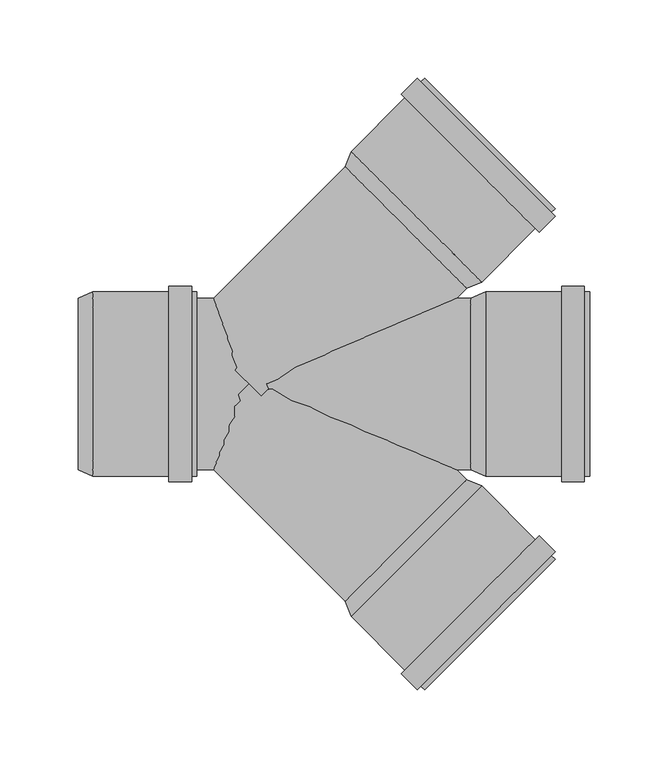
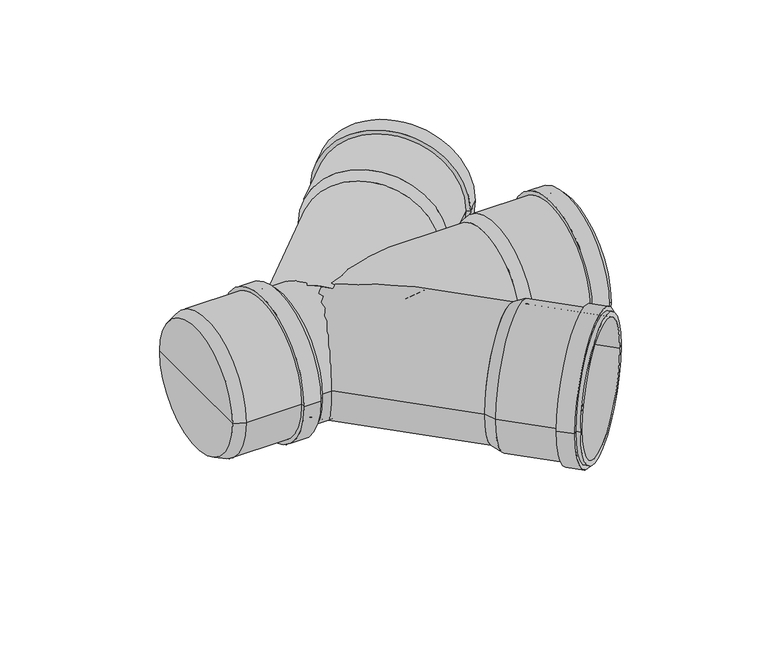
"""IFC4 building model written with IfcOpenShell, lengths in millimetres: pipe fitting geometry, pf_HTDA : pf_HTDA."""

from ifc_helpers import new_model, si_unit, point, frame, origin, origin_2d, place, context, project, spatial, polyline, circle_curve, trimmed, segment, composite_curve, outline, extrude, source, transform, mapped, element, save
from ifc_brep_helpers import plane_surface, cylinder_surface, revolved_surface, advanced_brep


def pipe_fitting_b5a4c82e(model_context):
    return source(origin(), model_context, "Body", "SolidModel", [
        advanced_brep(
        [(139.1586145, 61.3768686, 0.0), (61.3768686, 139.1586145, 0.0), (65.1952452, 148.7752668, 0.0), (148.7752668, 65.1952452, 0.0), (100.2677416, 100.2677416, 0.0), (195.7978677, 112.2178462, 0.0), (112.2178462, 195.7978677, 0.0), (115.116984, 192.8987299, 0.0), (192.8987299, 115.116984, 0.0), (193.3937047, 109.8136831, 0.0), (109.8136831, 193.3937047, 0.0), (195.7978677, 107.4095201, 0.0), (107.4095201, 195.7978677, 0.0), (185.5448194, 97.1564717, 0.0), (97.1564717, 185.5448194, 0.0), (183.1406563, 99.5606348, 0.0), (99.5606348, 183.1406563, 0.0), (145.876129, 68.094383, 0.0), (68.094383, 145.876129, 0.0), (106.985256, 106.985256, 0.0)],
        [
            (0, 1, circle_curve(frame((100.2677416, 100.2677416, 0.0), z_axis=(0.707106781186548, 0.707106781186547, 0.0), x_axis=(-0.707106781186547, 0.707106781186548, 0.0)), 55.0)),
            (1, 2),
            (2, 3, circle_curve(frame((106.985256, 106.985256, 0.0), z_axis=(-0.707106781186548, -0.707106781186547, 0.0), x_axis=(-0.707106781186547, 0.707106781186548, 0.0)), 59.1)),
            (3, 0),
            (1, 0, circle_curve(frame((100.2677416, 100.2677416, 0.0), z_axis=(0.707106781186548, 0.707106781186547, 0.0), x_axis=(-0.707106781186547, 0.707106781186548, 0.0)), 55.0)),
            (3, 2, circle_curve(frame((106.985256, 106.985256, 0.0), z_axis=(-0.707106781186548, -0.707106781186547, 0.0), x_axis=(-0.707106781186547, 0.707106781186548, 0.0)), 59.1)),
            (4, 1),
            (0, 4),
            (5, 6, circle_curve(frame((154.0078569, 154.0078569, 0.0), z_axis=(0.707106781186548, 0.707106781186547, 0.0), x_axis=(-0.707106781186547, 0.707106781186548, 0.0)), 59.1)),
            (6, 7),
            (7, 8, circle_curve(frame((154.0078569, 154.0078569, 0.0), z_axis=(-0.707106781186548, -0.707106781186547, 0.0), x_axis=(-0.707106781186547, 0.707106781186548, 0.0)), 55.0)),
            (8, 5),
            (6, 5, circle_curve(frame((154.0078569, 154.0078569, 0.0), z_axis=(0.707106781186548, 0.707106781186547, 0.0), x_axis=(-0.707106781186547, 0.707106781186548, 0.0)), 59.1)),
            (8, 7, circle_curve(frame((154.0078569, 154.0078569, 0.0), z_axis=(-0.707106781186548, -0.707106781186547, 0.0), x_axis=(-0.707106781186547, 0.707106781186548, 0.0)), 55.0)),
            (9, 10, circle_curve(frame((151.6036939, 151.6036939, 0.0), z_axis=(0.707106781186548, 0.707106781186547, 0.0), x_axis=(-0.707106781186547, 0.707106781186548, 0.0)), 59.1)),
            (10, 6),
            (5, 9),
            (10, 9, circle_curve(frame((151.6036939, 151.6036939, 0.0), z_axis=(0.707106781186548, 0.707106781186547, 0.0), x_axis=(-0.707106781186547, 0.707106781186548, 0.0)), 59.1)),
            (11, 12, circle_curve(frame((151.6036939, 151.6036939, 0.0), z_axis=(0.707106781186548, 0.707106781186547, 0.0), x_axis=(-0.707106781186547, 0.707106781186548, 0.0)), 62.5)),
            (12, 10),
            (9, 11),
            (12, 11, circle_curve(frame((151.6036939, 151.6036939, 0.0), z_axis=(0.707106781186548, 0.707106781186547, 0.0), x_axis=(-0.707106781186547, 0.707106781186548, 0.0)), 62.5)),
            (13, 14, circle_curve(frame((141.3506456, 141.3506456, 0.0), z_axis=(0.707106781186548, 0.707106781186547, 0.0), x_axis=(-0.707106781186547, 0.707106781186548, 0.0)), 62.5)),
            (14, 12),
            (11, 13),
            (14, 13, circle_curve(frame((141.3506456, 141.3506456, 0.0), z_axis=(0.707106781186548, 0.707106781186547, 0.0), x_axis=(-0.707106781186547, 0.707106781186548, 0.0)), 62.5)),
            (15, 16, circle_curve(frame((141.3506456, 141.3506456, 0.0), z_axis=(0.707106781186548, 0.707106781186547, 0.0), x_axis=(-0.707106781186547, 0.707106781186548, 0.0)), 59.1)),
            (16, 14),
            (13, 15),
            (16, 15, circle_curve(frame((141.3506456, 141.3506456, 0.0), z_axis=(0.707106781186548, 0.707106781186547, 0.0), x_axis=(-0.707106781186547, 0.707106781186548, 0.0)), 59.1)),
            (2, 16),
            (15, 3),
            (17, 18, circle_curve(frame((106.985256, 106.985256, 0.0), z_axis=(0.707106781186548, 0.707106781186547, 0.0), x_axis=(-0.707106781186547, 0.707106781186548, 0.0)), 55.0)),
            (18, 19),
            (19, 17),
            (18, 17, circle_curve(frame((106.985256, 106.985256, 0.0), z_axis=(0.707106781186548, 0.707106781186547, 0.0), x_axis=(-0.707106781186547, 0.707106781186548, 0.0)), 55.0)),
            (7, 18),
            (17, 8),
        ],
        [
            revolved_surface(polyline([(65.1952452, 148.7752668, 0.0), (61.3768686, 139.1586145, 0.0)]), (100.2677416, 100.2677416, 0.0), (-0.707106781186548, -0.707106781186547, 0.0)),
            plane_surface(frame((100.2677416, 100.2677416, 0.0), z_axis=(-0.707106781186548, -0.707106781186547, 0.0), x_axis=(-0.707106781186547, 0.707106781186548, 0.0))),
            plane_surface(frame((154.0078569, 154.0078569, 0.0), z_axis=(0.707106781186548, 0.707106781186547, 0.0), x_axis=(-0.707106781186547, 0.707106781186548, 0.0))),
            cylinder_surface(frame((100.2677416, 100.2677416, 0.0), z_axis=(-0.707106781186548, -0.707106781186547, 0.0), x_axis=(-0.707106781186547, 0.707106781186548, 0.0)), 59.1),
            plane_surface(frame((151.6036939, 151.6036939, 0.0), z_axis=(0.707106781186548, 0.707106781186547, 0.0), x_axis=(-0.707106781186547, 0.707106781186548, 0.0))),
            cylinder_surface(frame((100.2677416, 100.2677416, 0.0), z_axis=(-0.707106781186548, -0.707106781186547, 0.0), x_axis=(-0.707106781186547, 0.707106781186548, 0.0)), 62.5),
            plane_surface(frame((141.3506456, 141.3506456, 0.0), z_axis=(-0.707106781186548, -0.707106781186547, 0.0), x_axis=(-0.707106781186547, 0.707106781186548, 0.0))),
            plane_surface(frame((106.985256, 106.985256, 0.0), z_axis=(0.707106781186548, 0.707106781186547, 0.0), x_axis=(-0.707106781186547, 0.707106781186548, 0.0))),
            revolved_surface(polyline([(68.09438303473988, 145.8761289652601, 0.0), (115.11698398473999, 192.89872991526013, 0.0)]), (100.2677416, 100.2677416, 0.0), (-0.707106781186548, -0.707106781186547, 0.0)),
        ],
        [
            (0, [[1, 2, 3, 4]]),
            (0, [[5, -4, 6, -2]]),
            (1, [[7, -1, 8]]),
            (1, [[-8, -5, -7]]),
            (2, [[9, 10, 11, 12]]),
            (2, [[13, -12, 14, -10]]),
            (3, [[15, 16, -9, 17]]),
            (3, [[18, -17, -13, -16]]),
            (4, [[19, 20, -15, 21]]),
            (4, [[22, -21, -18, -20]]),
            (5, [[23, 24, -19, 25]]),
            (5, [[26, -25, -22, -24]]),
            (6, [[27, 28, -23, 29]]),
            (6, [[30, -29, -26, -28]]),
            (3, [[-3, 31, -27, 32]]),
            (3, [[-6, -32, -30, -31]]),
            (7, [[33, 34, 35]]),
            (7, [[36, -35, -34]]),
            (8, [[-11, 37, -33, 38]]),
            (8, [[-14, -38, -36, -37]]),
        ],
    ),
        advanced_brep(
        [(61.3768686, -139.1586145, 0.0), (139.1586145, -61.3768686, 0.0), (148.7752668, -65.1952452, 0.0), (65.1952452, -148.7752668, 0.0), (100.2677416, -100.2677416, 0.0), (112.2178462, -195.7978677, 0.0), (195.7978677, -112.2178462, 0.0), (192.8987299, -115.116984, 0.0), (115.116984, -192.8987299, 0.0), (109.8136831, -193.3937047, 0.0), (193.3937047, -109.8136831, 0.0), (107.4095201, -195.7978677, 0.0), (195.7978677, -107.4095201, 0.0), (97.1564717, -185.5448194, 0.0), (185.5448194, -97.1564717, 0.0), (99.5606348, -183.1406563, 0.0), (183.1406563, -99.5606348, 0.0), (68.094383, -145.876129, 0.0), (145.876129, -68.094383, 0.0), (106.985256, -106.985256, 0.0)],
        [
            (0, 1, circle_curve(frame((100.2677416, -100.2677416, 0.0), z_axis=(0.7071067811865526, -0.7071067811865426, 0.0), x_axis=(0.7071067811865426, 0.7071067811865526, 0.0)), 55.0)),
            (1, 2),
            (2, 3, circle_curve(frame((106.985256, -106.985256, 0.0), z_axis=(-0.7071067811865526, 0.7071067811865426, 0.0), x_axis=(0.7071067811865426, 0.7071067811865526, 0.0)), 59.1)),
            (3, 0),
            (1, 0, circle_curve(frame((100.2677416, -100.2677416, 0.0), z_axis=(0.7071067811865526, -0.7071067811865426, 0.0), x_axis=(0.7071067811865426, 0.7071067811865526, 0.0)), 55.0)),
            (3, 2, circle_curve(frame((106.985256, -106.985256, 0.0), z_axis=(-0.7071067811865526, 0.7071067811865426, 0.0), x_axis=(0.7071067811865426, 0.7071067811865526, 0.0)), 59.1)),
            (4, 1),
            (0, 4),
            (5, 6, circle_curve(frame((154.0078569, -154.0078569, 0.0), z_axis=(0.7071067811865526, -0.7071067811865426, 0.0), x_axis=(0.7071067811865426, 0.7071067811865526, 0.0)), 59.1)),
            (6, 7),
            (7, 8, circle_curve(frame((154.0078569, -154.0078569, 0.0), z_axis=(-0.7071067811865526, 0.7071067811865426, 0.0), x_axis=(0.7071067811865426, 0.7071067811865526, 0.0)), 55.0)),
            (8, 5),
            (6, 5, circle_curve(frame((154.0078569, -154.0078569, 0.0), z_axis=(0.7071067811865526, -0.7071067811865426, 0.0), x_axis=(0.7071067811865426, 0.7071067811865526, 0.0)), 59.1)),
            (8, 7, circle_curve(frame((154.0078569, -154.0078569, 0.0), z_axis=(-0.7071067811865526, 0.7071067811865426, 0.0), x_axis=(0.7071067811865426, 0.7071067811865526, 0.0)), 55.0)),
            (9, 10, circle_curve(frame((151.6036939, -151.6036939, 0.0), z_axis=(0.7071067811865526, -0.7071067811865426, 0.0), x_axis=(0.7071067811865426, 0.7071067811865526, 0.0)), 59.1)),
            (10, 6),
            (5, 9),
            (10, 9, circle_curve(frame((151.6036939, -151.6036939, 0.0), z_axis=(0.7071067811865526, -0.7071067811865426, 0.0), x_axis=(0.7071067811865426, 0.7071067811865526, 0.0)), 59.1)),
            (11, 12, circle_curve(frame((151.6036939, -151.6036939, 0.0), z_axis=(0.7071067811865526, -0.7071067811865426, 0.0), x_axis=(0.7071067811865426, 0.7071067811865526, 0.0)), 62.5)),
            (12, 10),
            (9, 11),
            (12, 11, circle_curve(frame((151.6036939, -151.6036939, 0.0), z_axis=(0.7071067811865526, -0.7071067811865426, 0.0), x_axis=(0.7071067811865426, 0.7071067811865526, 0.0)), 62.5)),
            (13, 14, circle_curve(frame((141.3506456, -141.3506456, 0.0), z_axis=(0.7071067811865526, -0.7071067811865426, 0.0), x_axis=(0.7071067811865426, 0.7071067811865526, 0.0)), 62.5)),
            (14, 12),
            (11, 13),
            (14, 13, circle_curve(frame((141.3506456, -141.3506456, 0.0), z_axis=(0.7071067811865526, -0.7071067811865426, 0.0), x_axis=(0.7071067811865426, 0.7071067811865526, 0.0)), 62.5)),
            (15, 16, circle_curve(frame((141.3506456, -141.3506456, 0.0), z_axis=(0.7071067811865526, -0.7071067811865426, 0.0), x_axis=(0.7071067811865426, 0.7071067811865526, 0.0)), 59.1)),
            (16, 14),
            (13, 15),
            (16, 15, circle_curve(frame((141.3506456, -141.3506456, 0.0), z_axis=(0.7071067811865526, -0.7071067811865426, 0.0), x_axis=(0.7071067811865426, 0.7071067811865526, 0.0)), 59.1)),
            (2, 16),
            (15, 3),
            (17, 18, circle_curve(frame((106.985256, -106.985256, 0.0), z_axis=(0.7071067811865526, -0.7071067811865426, 0.0), x_axis=(0.7071067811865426, 0.7071067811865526, 0.0)), 55.0)),
            (18, 19),
            (19, 17),
            (18, 17, circle_curve(frame((106.985256, -106.985256, 0.0), z_axis=(0.7071067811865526, -0.7071067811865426, 0.0), x_axis=(0.7071067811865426, 0.7071067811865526, 0.0)), 55.0)),
            (7, 18),
            (17, 8),
        ],
        [
            revolved_surface(polyline([(148.7752668, -65.1952452, 0.0), (139.1586145, -61.3768686, 0.0)]), (100.2677416, -100.2677416, 0.0), (-0.7071067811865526, 0.7071067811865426, 0.0)),
            plane_surface(frame((100.2677416, -100.2677416, 0.0), z_axis=(-0.7071067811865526, 0.7071067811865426, 0.0), x_axis=(0.7071067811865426, 0.7071067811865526, 0.0))),
            plane_surface(frame((154.0078569, -154.0078569, 0.0), z_axis=(0.7071067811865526, -0.7071067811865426, 0.0), x_axis=(0.7071067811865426, 0.7071067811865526, 0.0))),
            cylinder_surface(frame((100.2677416, -100.2677416, 0.0), z_axis=(-0.7071067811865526, 0.7071067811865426, 0.0), x_axis=(0.7071067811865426, 0.7071067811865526, 0.0)), 59.1),
            plane_surface(frame((151.6036939, -151.6036939, 0.0), z_axis=(0.7071067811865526, -0.7071067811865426, 0.0), x_axis=(0.7071067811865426, 0.7071067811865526, 0.0))),
            cylinder_surface(frame((100.2677416, -100.2677416, 0.0), z_axis=(-0.7071067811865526, 0.7071067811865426, 0.0), x_axis=(0.7071067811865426, 0.7071067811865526, 0.0)), 62.5),
            plane_surface(frame((141.3506456, -141.3506456, 0.0), z_axis=(-0.7071067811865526, 0.7071067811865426, 0.0), x_axis=(0.7071067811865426, 0.7071067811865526, 0.0))),
            plane_surface(frame((106.985256, -106.985256, 0.0), z_axis=(0.7071067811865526, -0.7071067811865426, 0.0), x_axis=(0.7071067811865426, 0.7071067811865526, 0.0))),
            revolved_surface(polyline([(145.8761289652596, -68.09438303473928, 0.0), (192.8987299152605, -115.1169839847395, 0.0)]), (100.2677416, -100.2677416, 0.0), (-0.7071067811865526, 0.7071067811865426, 0.0)),
        ],
        [
            (0, [[1, 2, 3, 4]]),
            (0, [[5, -4, 6, -2]]),
            (1, [[7, -1, 8]]),
            (1, [[-8, -5, -7]]),
            (2, [[9, 10, 11, 12]]),
            (2, [[13, -12, 14, -10]]),
            (3, [[15, 16, -9, 17]]),
            (3, [[18, -17, -13, -16]]),
            (4, [[19, 20, -15, 21]]),
            (4, [[22, -21, -18, -20]]),
            (5, [[23, 24, -19, 25]]),
            (5, [[26, -25, -22, -24]]),
            (6, [[27, 28, -23, 29]]),
            (6, [[30, -29, -26, -28]]),
            (3, [[-3, 31, -27, 32]]),
            (3, [[-6, -32, -30, -31]]),
            (7, [[33, 34, 35]]),
            (7, [[36, -35, -34]]),
            (8, [[-11, 37, -33, 38]]),
            (8, [[-14, -38, -36, -37]]),
        ],
    ),
        advanced_brep(
        [(141.8, -55.0, 0.0), (141.8, 55.0, 0.0), (151.3, 59.1, 0.0), (151.3, -59.1, 0.0), (141.8, 0.0, 0.0), (217.8, -59.1, 0.0), (217.8, 59.1, 0.0), (217.8, 55.0, 0.0), (217.8, -55.0, 0.0), (214.4, -59.1, 0.0), (214.4, 59.1, 0.0), (214.4, -62.5, 0.0), (214.4, 62.5, 0.0), (199.9, -62.5, 0.0), (199.9, 62.5, 0.0), (199.9, -59.1, 0.0), (199.9, 59.1, 0.0), (151.3, -55.0, 0.0), (151.3, 55.0, 0.0), (151.3, 0.0, 0.0)],
        [
            (0, 1, circle_curve(frame((141.8, 0.0, 0.0), z_axis=(1.0, 0.0, 0.0), x_axis=(0.0, 1.0, 0.0)), 55.0)),
            (1, 2),
            (2, 3, circle_curve(frame((151.3, 0.0, 0.0), z_axis=(-1.0, 0.0, 0.0), x_axis=(0.0, 1.0, 0.0)), 59.1)),
            (3, 0),
            (1, 0, circle_curve(frame((141.8, 0.0, 0.0), z_axis=(1.0, 0.0, 0.0), x_axis=(0.0, 1.0, 0.0)), 55.0)),
            (3, 2, circle_curve(frame((151.3, 0.0, 0.0), z_axis=(-1.0, 0.0, 0.0), x_axis=(0.0, 1.0, 0.0)), 59.1)),
            (4, 1),
            (0, 4),
            (5, 6, circle_curve(frame((217.8, 0.0, 0.0), z_axis=(1.0, 0.0, 0.0), x_axis=(0.0, 1.0, 0.0)), 59.1)),
            (6, 7),
            (7, 8, circle_curve(frame((217.8, 0.0, 0.0), z_axis=(-1.0, 0.0, 0.0), x_axis=(0.0, 1.0, 0.0)), 55.0)),
            (8, 5),
            (6, 5, circle_curve(frame((217.8, 0.0, 0.0), z_axis=(1.0, 0.0, 0.0), x_axis=(0.0, 1.0, 0.0)), 59.1)),
            (8, 7, circle_curve(frame((217.8, 0.0, 0.0), z_axis=(-1.0, 0.0, 0.0), x_axis=(0.0, 1.0, 0.0)), 55.0)),
            (9, 10, circle_curve(frame((214.4, 0.0, 0.0), z_axis=(1.0, 0.0, 0.0), x_axis=(0.0, 1.0, 0.0)), 59.1)),
            (10, 6),
            (5, 9),
            (10, 9, circle_curve(frame((214.4, 0.0, 0.0), z_axis=(1.0, 0.0, 0.0), x_axis=(0.0, 1.0, 0.0)), 59.1)),
            (11, 12, circle_curve(frame((214.4, 0.0, 0.0), z_axis=(1.0, 0.0, 0.0), x_axis=(0.0, 1.0, 0.0)), 62.5)),
            (12, 10),
            (9, 11),
            (12, 11, circle_curve(frame((214.4, 0.0, 0.0), z_axis=(1.0, 0.0, 0.0), x_axis=(0.0, 1.0, 0.0)), 62.5)),
            (13, 14, circle_curve(frame((199.9, 0.0, 0.0), z_axis=(1.0, 0.0, 0.0), x_axis=(0.0, 1.0, 0.0)), 62.5)),
            (14, 12),
            (11, 13),
            (14, 13, circle_curve(frame((199.9, 0.0, 0.0), z_axis=(1.0, 0.0, 0.0), x_axis=(0.0, 1.0, 0.0)), 62.5)),
            (15, 16, circle_curve(frame((199.9, 0.0, 0.0), z_axis=(1.0, 0.0, 0.0), x_axis=(0.0, 1.0, 0.0)), 59.1)),
            (16, 14),
            (13, 15),
            (16, 15, circle_curve(frame((199.9, 0.0, 0.0), z_axis=(1.0, 0.0, 0.0), x_axis=(0.0, 1.0, 0.0)), 59.1)),
            (2, 16),
            (15, 3),
            (17, 18, circle_curve(frame((151.3, 0.0, 0.0), z_axis=(1.0, 0.0, 0.0), x_axis=(0.0, 1.0, 0.0)), 55.0)),
            (18, 19),
            (19, 17),
            (18, 17, circle_curve(frame((151.3, 0.0, 0.0), z_axis=(1.0, 0.0, 0.0), x_axis=(0.0, 1.0, 0.0)), 55.0)),
            (7, 18),
            (17, 8),
        ],
        [
            revolved_surface(polyline([(151.3, 59.1, 0.0), (141.8, 55.0, 0.0)]), (141.8, 0.0, 0.0), (-1.0, 0.0, 0.0)),
            plane_surface(frame((141.8, 0.0, 0.0), z_axis=(-1.0, 0.0, 0.0), x_axis=(0.0, 1.0, 0.0))),
            plane_surface(frame((217.8, 0.0, 0.0), z_axis=(1.0, 0.0, 0.0), x_axis=(0.0, 1.0, 0.0))),
            cylinder_surface(frame((141.8, 0.0, 0.0), z_axis=(-1.0, 0.0, 0.0), x_axis=(0.0, 1.0, 0.0)), 59.1),
            plane_surface(frame((214.4, 0.0, 0.0), z_axis=(1.0, 0.0, 0.0), x_axis=(0.0, 1.0, 0.0))),
            cylinder_surface(frame((141.8, 0.0, 0.0), z_axis=(-1.0, 0.0, 0.0), x_axis=(0.0, 1.0, 0.0)), 62.5),
            plane_surface(frame((199.9, 0.0, 0.0), z_axis=(-1.0, 0.0, 0.0), x_axis=(0.0, 1.0, 0.0))),
            plane_surface(frame((151.3, 0.0, 0.0), z_axis=(1.0, 0.0, 0.0), x_axis=(0.0, 1.0, 0.0))),
            revolved_surface(polyline([(151.3, 55.0, 0.0), (217.8, 55.0, 0.0)]), (141.8, 0.0, 0.0), (-1.0, 0.0, 0.0)),
        ],
        [
            (0, [[1, 2, 3, 4]]),
            (0, [[5, -4, 6, -2]]),
            (1, [[7, -1, 8]]),
            (1, [[-8, -5, -7]]),
            (2, [[9, 10, 11, 12]]),
            (2, [[13, -12, 14, -10]]),
            (3, [[15, 16, -9, 17]]),
            (3, [[18, -17, -13, -16]]),
            (4, [[19, 20, -15, 21]]),
            (4, [[22, -21, -18, -20]]),
            (5, [[23, 24, -19, 25]]),
            (5, [[26, -25, -22, -24]]),
            (6, [[27, 28, -23, 29]]),
            (6, [[30, -29, -26, -28]]),
            (3, [[-3, 31, -27, 32]]),
            (3, [[-6, -32, -30, -31]]),
            (7, [[33, 34, 35]]),
            (7, [[36, -35, -34]]),
            (8, [[-11, 37, -33, 38]]),
            (8, [[-14, -38, -36, -37]]),
        ],
    ),
        advanced_brep(
        [(-109.6, -55.0, 0.0), (-109.6, 55.0, 0.0), (-100.1, 59.1, 0.0), (-100.1, -59.1, 0.0), (-109.6, 0.0, 0.0), (-33.6, -59.1, 0.0), (-33.6, 59.1, 0.0), (-33.6, 55.0, 0.0), (-33.6, -55.0, 0.0), (-37.0, -59.1, 0.0), (-37.0, 59.1, 0.0), (-37.0, -62.5, 0.0), (-37.0, 62.5, 0.0), (-51.5, -62.5, 0.0), (-51.5, 62.5, 0.0), (-51.5, -59.1, 0.0), (-51.5, 59.1, 0.0), (-100.1, -55.0, 0.0), (-100.1, 55.0, 0.0), (-100.1, 0.0, 0.0)],
        [
            (0, 1, circle_curve(frame((-109.6, 0.0, 0.0), z_axis=(1.0, 0.0, 0.0), x_axis=(0.0, 1.0, 0.0)), 55.0)),
            (1, 2),
            (2, 3, circle_curve(frame((-100.1, 0.0, 0.0), z_axis=(-1.0, 0.0, 0.0), x_axis=(0.0, 1.0, 0.0)), 59.1)),
            (3, 0),
            (1, 0, circle_curve(frame((-109.6, 0.0, 0.0), z_axis=(1.0, 0.0, 0.0), x_axis=(0.0, 1.0, 0.0)), 55.0)),
            (3, 2, circle_curve(frame((-100.1, 0.0, 0.0), z_axis=(-1.0, 0.0, 0.0), x_axis=(0.0, 1.0, 0.0)), 59.1)),
            (4, 1),
            (0, 4),
            (5, 6, circle_curve(frame((-33.6, 0.0, 0.0), z_axis=(1.0, 0.0, 0.0), x_axis=(0.0, 1.0, 0.0)), 59.1)),
            (6, 7),
            (7, 8, circle_curve(frame((-33.6, 0.0, 0.0), z_axis=(-1.0, 0.0, 0.0), x_axis=(0.0, 1.0, 0.0)), 55.0)),
            (8, 5),
            (6, 5, circle_curve(frame((-33.6, 0.0, 0.0), z_axis=(1.0, 0.0, 0.0), x_axis=(0.0, 1.0, 0.0)), 59.1)),
            (8, 7, circle_curve(frame((-33.6, 0.0, 0.0), z_axis=(-1.0, 0.0, 0.0), x_axis=(0.0, 1.0, 0.0)), 55.0)),
            (9, 10, circle_curve(frame((-37.0, 0.0, 0.0), z_axis=(1.0, 0.0, 0.0), x_axis=(0.0, 1.0, 0.0)), 59.1)),
            (10, 6),
            (5, 9),
            (10, 9, circle_curve(frame((-37.0, 0.0, 0.0), z_axis=(1.0, 0.0, 0.0), x_axis=(0.0, 1.0, 0.0)), 59.1)),
            (11, 12, circle_curve(frame((-37.0, 0.0, 0.0), z_axis=(1.0, 0.0, 0.0), x_axis=(0.0, 1.0, 0.0)), 62.5)),
            (12, 10),
            (9, 11),
            (12, 11, circle_curve(frame((-37.0, 0.0, 0.0), z_axis=(1.0, 0.0, 0.0), x_axis=(0.0, 1.0, 0.0)), 62.5)),
            (13, 14, circle_curve(frame((-51.5, 0.0, 0.0), z_axis=(1.0, 0.0, 0.0), x_axis=(0.0, 1.0, 0.0)), 62.5)),
            (14, 12),
            (11, 13),
            (14, 13, circle_curve(frame((-51.5, 0.0, 0.0), z_axis=(1.0, 0.0, 0.0), x_axis=(0.0, 1.0, 0.0)), 62.5)),
            (15, 16, circle_curve(frame((-51.5, 0.0, 0.0), z_axis=(1.0, 0.0, 0.0), x_axis=(0.0, 1.0, 0.0)), 59.1)),
            (16, 14),
            (13, 15),
            (16, 15, circle_curve(frame((-51.5, 0.0, 0.0), z_axis=(1.0, 0.0, 0.0), x_axis=(0.0, 1.0, 0.0)), 59.1)),
            (2, 16),
            (15, 3),
            (17, 18, circle_curve(frame((-100.1, 0.0, 0.0), z_axis=(1.0, 0.0, 0.0), x_axis=(0.0, 1.0, 0.0)), 55.0)),
            (18, 19),
            (19, 17),
            (18, 17, circle_curve(frame((-100.1, 0.0, 0.0), z_axis=(1.0, 0.0, 0.0), x_axis=(0.0, 1.0, 0.0)), 55.0)),
            (7, 18),
            (17, 8),
        ],
        [
            revolved_surface(polyline([(-100.1, 59.1, 0.0), (-109.6, 55.0, 0.0)]), (-109.6, 0.0, 0.0), (-1.0, 0.0, 0.0)),
            plane_surface(frame((-109.6, 0.0, 0.0), z_axis=(-1.0, 0.0, 0.0), x_axis=(0.0, 1.0, 0.0))),
            plane_surface(frame((-33.6, 0.0, 0.0), z_axis=(1.0, 0.0, 0.0), x_axis=(0.0, 1.0, 0.0))),
            cylinder_surface(frame((-109.6, 0.0, 0.0), z_axis=(-1.0, 0.0, 0.0), x_axis=(0.0, 1.0, 0.0)), 59.1),
            plane_surface(frame((-37.0, 0.0, 0.0), z_axis=(1.0, 0.0, 0.0), x_axis=(0.0, 1.0, 0.0))),
            cylinder_surface(frame((-109.6, 0.0, 0.0), z_axis=(-1.0, 0.0, 0.0), x_axis=(0.0, 1.0, 0.0)), 62.5),
            plane_surface(frame((-51.5, 0.0, 0.0), z_axis=(-1.0, 0.0, 0.0), x_axis=(0.0, 1.0, 0.0))),
            plane_surface(frame((-100.1, 0.0, 0.0), z_axis=(1.0, 0.0, 0.0), x_axis=(0.0, 1.0, 0.0))),
            revolved_surface(polyline([(-100.1, 55.0, 0.0), (-33.599999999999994, 55.0, 0.0)]), (-109.6, 0.0, 0.0), (-1.0, 0.0, 0.0)),
        ],
        [
            (0, [[1, 2, 3, 4]]),
            (0, [[5, -4, 6, -2]]),
            (1, [[7, -1, 8]]),
            (1, [[-8, -5, -7]]),
            (2, [[9, 10, 11, 12]]),
            (2, [[13, -12, 14, -10]]),
            (3, [[15, 16, -9, 17]]),
            (3, [[18, -17, -13, -16]]),
            (4, [[19, 20, -15, 21]]),
            (4, [[22, -21, -18, -20]]),
            (5, [[23, 24, -19, 25]]),
            (5, [[26, -25, -22, -24]]),
            (6, [[27, 28, -23, 29]]),
            (6, [[30, -29, -26, -28]]),
            (3, [[-3, 31, -27, 32]]),
            (3, [[-6, -32, -30, -31]]),
            (7, [[33, 34, 35]]),
            (7, [[36, -35, -34]]),
            (8, [[-11, 37, -33, 38]]),
            (8, [[-14, -38, -36, -37]]),
        ],
    ),
        extrude(outline(composite_curve([segment(trimmed(circle_curve(origin_2d(), 55.0), [point((0.0, 55.0))], [point((0.0, -55.0))], False, "CARTESIAN"), True, "CONTINUOUS"), segment(trimmed(circle_curve(origin_2d(), 55.0), [point((0.0, -55.0))], [point((0.0, 55.0))], False, "CARTESIAN"), True, "CONTINUOUS")], self_intersect=False)), frame((0.0, 0.0, 0.0), z_axis=(0.7071067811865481, 0.7071067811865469, 0.0), x_axis=(0.0, 0.0, 1.0)), (0.0, 0.0, 1.0), 141.8),
        extrude(outline(composite_curve([segment(trimmed(circle_curve(origin_2d(), 55.0), [point((0.0, -55.0))], [point((0.0, 55.0))], False, "CARTESIAN"), True, "CONTINUOUS"), segment(trimmed(circle_curve(origin_2d(), 55.0), [point((0.0, 55.0))], [point((0.0, -55.0))], False, "CARTESIAN"), True, "CONTINUOUS")], self_intersect=False)), frame((100.2677416, -100.2677416, 0.0), z_axis=(-0.7071067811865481, 0.7071067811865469, 0.0), x_axis=(0.0, 0.0, 1.0)), (0.0, 0.0, 1.0), 141.8),
        extrude(outline(composite_curve([segment(trimmed(circle_curve(origin_2d(), 55.0), [point((-55.0, 0.0))], [point((55.0, 0.0))], False, "CARTESIAN"), True, "CONTINUOUS"), segment(trimmed(circle_curve(origin_2d(), 55.0), [point((55.0, 0.0))], [point((-55.0, 0.0))], False, "CARTESIAN"), True, "CONTINUOUS")], self_intersect=False)), frame((-100.1, 0.0, 0.0), z_axis=(1.0, 0.0, 0.0), x_axis=(0.0, 1.0, 0.0)), (0.0, 0.0, 1.0), 241.9),
    ])


if __name__ == "__main__":
    model = new_model("IFC4")
    model_context = context("Model", 3, world=origin())
    ifc_project = project(units=[si_unit("LENGTHUNIT", "METRE", prefix="MILLI")], contexts=[model_context])
    site = spatial("IfcSite", under=ifc_project)
    building = spatial("IfcBuilding", under=site)
    placement = place(None, origin())
    pipe_fitting_shape = pipe_fitting_b5a4c82e(model_context)
    element("IfcPipeFitting", 1, ObjectType="pf_HTDA : pf_HTDA", at=placement, inside=building, context=model_context, shape_type="MappedRepresentation", body=[
        mapped(pipe_fitting_shape, transform((0.0, 0.0, 0.0), x_axis=(1.0, 0.0, 0.0), y_axis=(0.0, 1.0, 0.0), z_axis=(0.0, 0.0, 1.0))),
    ])
    save(model, "model.ifc")
